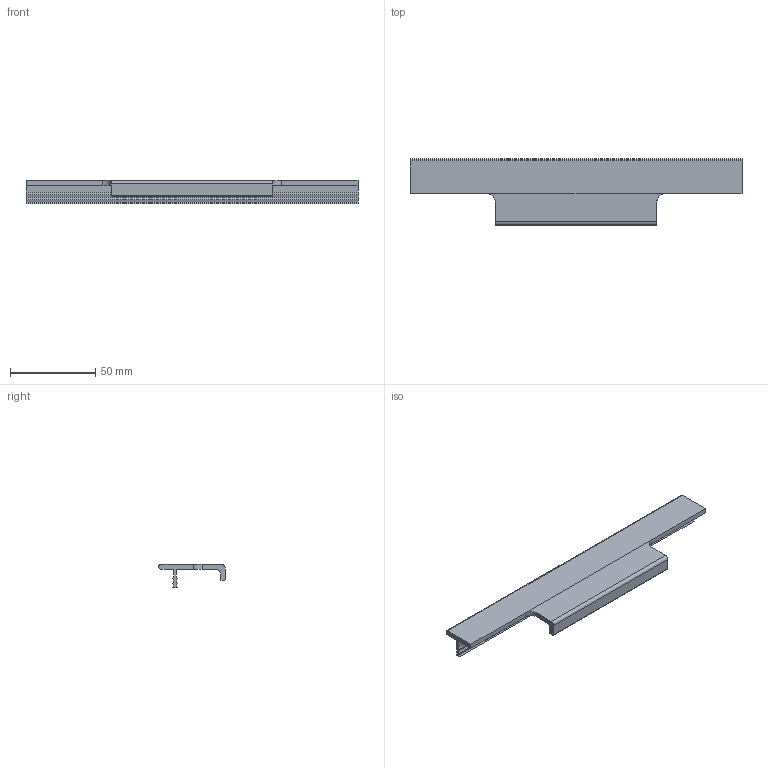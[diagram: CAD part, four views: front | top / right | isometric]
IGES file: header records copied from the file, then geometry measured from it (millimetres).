
Start section: Data from Parasolid IGES Translator 20.0.26, Copyright(c) 2006 Siemens P LM Software. All Rights Reserved.
Global section: file name: 9247830.igs; native system: By Siemens PLM Incorporated; preprocessor: XPlus GENERIC/IGES 20.0.26; author: Noname; organization: Noname; date: 20210623.170835; units: millimetre
Bounding box: 195 x 39 x 14 mm (x, y, z)
Surface area: 18423.4 mm2 (no closed solid volume)
Topology: 0 solids, 0 shells, 40 faces, 224 edges, 224 vertices
Faces by surface type: extrusion 30, revolution 10
